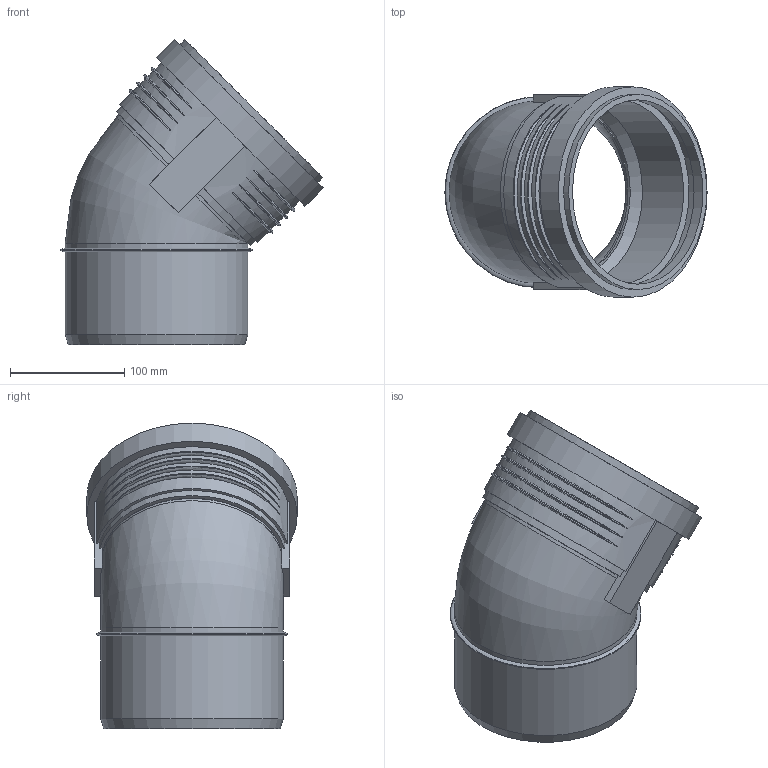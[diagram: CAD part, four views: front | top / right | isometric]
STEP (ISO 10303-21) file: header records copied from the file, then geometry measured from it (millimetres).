
FILE_DESCRIPTION(/* description */ (''),/* implementation_level */ '2;1');
FILE_NAME(/* name */ 'Z:\Geberit\Export\NewStep\390722.stp',/* time_stamp */ '2014-04-02T08:16:38+02:00',/* author */ ('ML'),/* organization */ (''),/* preprocessor_version */ 'ST-DEVELOPER v15.2',/* originating_system */ 'Autodesk Inventor 2014',/* authorisation */ '');
FILE_SCHEMA (('AUTOMOTIVE_DESIGN { 1 0 10303 214 3 1 1 }'));
Length unit declared in the file: millimetre
Products named in the file (3): 861598; 861560; 390722
Bounding box: 229.96 x 184.5 x 268.01 mm (x, y, z)
Volume: 680471.4 mm3; surface area: 282177.1 mm2
Topology: 2 solids, 2 shells, 68 faces, 162 edges, 109 vertices
Faces by surface type: torus 28, plane 19, cylinder 18, cone 2, bspline 1
Full cylindrical faces by diameter (mm): 149.85 x2, 150.65 x1, 160.25 x4, 161.7 x2, 171.3 x1, 174.9 x1, 184.5 x1
Entity records: 2726 total; most frequent: CARTESIAN_POINT 1150, DIRECTION 290, ORIENTED_EDGE 278, EDGE_CURVE 139, AXIS2_PLACEMENT_3D 127, VERTEX_POINT 106, EDGE_LOOP 103, STYLED_ITEM 70
